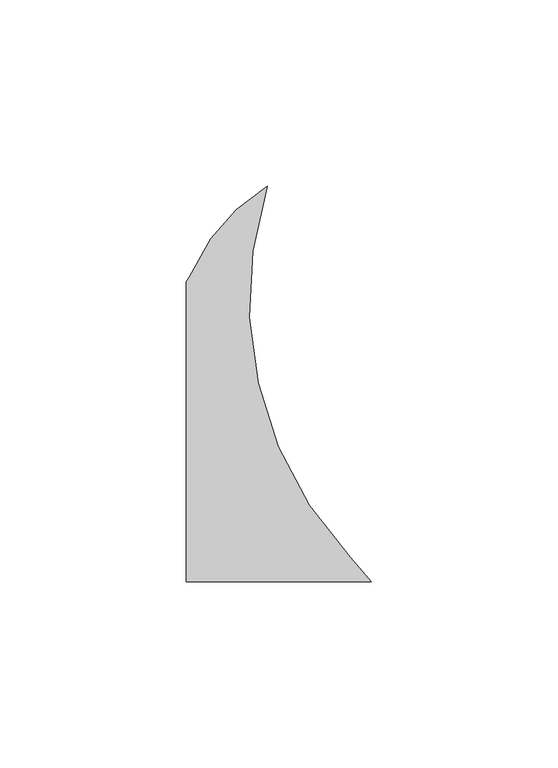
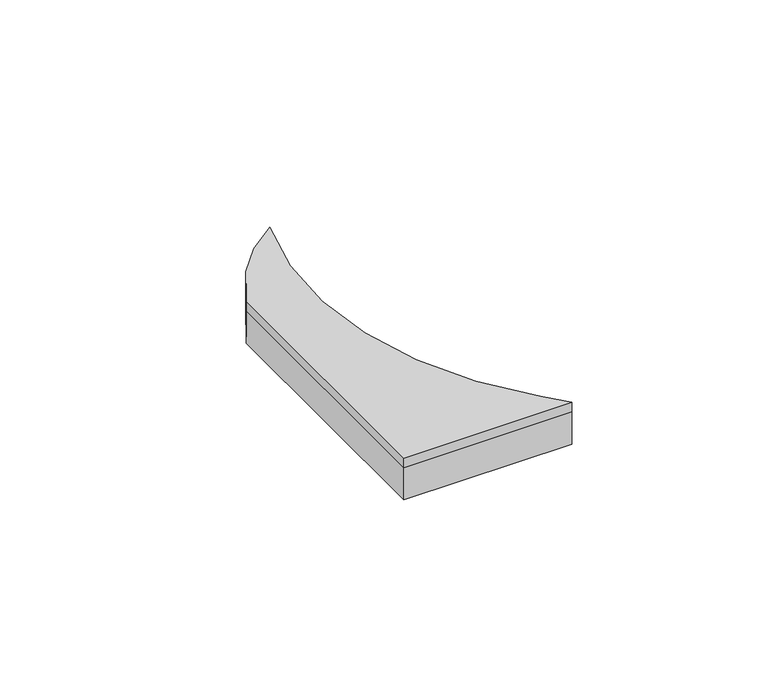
"""IFC4 building model written with IfcOpenShell, lengths in millimetres: proxy geometry, FilzFelt_Fish_Block : Fish Block."""

from ifc_helpers import new_model, si_unit, point, frame, frame_2d, origin, origin_with_axes, place, context, project, spatial, polyline, circle_curve, trimmed, segment, composite_curve, outline, extrude, source, transform, mapped, element, save


def specialty_equipment_29c11f93(model_context):
    return source(origin(), model_context, "Body", "SweptSolid", [
        extrude(outline(composite_curve([segment(trimmed(circle_curve(frame_2d((-19.5151403, 0.0)), 100.2293629), [point((53.5486457, 68.6120133))], [point((59.1130093, 62.1573751))], False, "CARTESIAN"), True, "CONTINUOUS"), segment(polyline([(59.1130093, 62.1573751), (9.5821396, 62.1573751), (9.5821396, 142.6151843)]), True, "CONTINUOUS"), segment(trimmed(circle_curve(frame_2d((0.0, 149.9026124)), 12.0384388), [point((9.5821396, 142.6151843))], [point((11.0103348, 145.0347036))], True, "CARTESIAN"), True, "CONTINUOUS"), segment(trimmed(circle_curve(frame_2d((57.9263497, 124.2921115)), 51.2968574), [point((11.0103348, 145.0347036))], [point((31.2619065, 168.1141956))], False, "CARTESIAN"), True, "CONTINUOUS"), segment(trimmed(circle_curve(frame_2d((126.6124317, 137.2240266)), 100.2293629), [point((31.2619065, 168.1141956))], [point((53.5486457, 68.6120133))], True, "CARTESIAN"), True, "CONTINUOUS")], self_intersect=False)), frame((0.0, 0.0, 10.0210937), z_axis=(0.0, 0.0, 1.0), x_axis=(1.0, 0.0, 0.0)), (0.0, 0.0, 1.0), 2.9765625),
        extrude(outline(composite_curve([segment(trimmed(circle_curve(frame_2d((126.6124317, 137.2240266)), 100.2293629), [point((31.2619065, 168.1141956))], [point((53.5486457, 68.6120133))], True, "CARTESIAN"), True, "CONTINUOUS"), segment(trimmed(circle_curve(frame_2d((-19.5151403, 0.0)), 100.2293629), [point((53.5486457, 68.6120133))], [point((59.1130093, 62.1573751))], False, "CARTESIAN"), True, "CONTINUOUS"), segment(polyline([(59.1130093, 62.1573751), (9.5821396, 62.1573751), (9.5821396, 142.6151843)]), True, "CONTINUOUS"), segment(trimmed(circle_curve(frame_2d((0.0, 149.9026124)), 12.0384388), [point((9.5821396, 142.6151843))], [point((11.0103348, 145.0347036))], True, "CARTESIAN"), True, "CONTINUOUS"), segment(trimmed(circle_curve(frame_2d((57.9263497, 124.2921115)), 51.2968574), [point((11.0103348, 145.0347036))], [point((31.2619065, 168.1141956))], False, "CARTESIAN"), True, "CONTINUOUS")], self_intersect=False)), origin_with_axes(), (0.0, 0.0, 1.0), 10.0210938),
    ])


if __name__ == "__main__":
    model = new_model("IFC4")
    model_context = context("Model", 3, world=origin())
    ifc_project = project(units=[si_unit("LENGTHUNIT", "METRE", prefix="MILLI")], contexts=[model_context])
    site = spatial("IfcSite", under=ifc_project)
    building = spatial("IfcBuilding", under=site)
    placement = place(None, origin())
    specialty_equipment_shape = specialty_equipment_29c11f93(model_context)
    element("IfcBuildingElementProxy", 1, Name="FilzFelt_Fish_Block : Fish Block", ObjectType="FilzFelt_Fish_Block : Fish Block", at=placement, inside=building, context=model_context, shape_type="MappedRepresentation", body=[
        mapped(specialty_equipment_shape, transform((0.0, 0.0, 0.0), x_axis=(1.0, 0.0, 0.0), y_axis=(0.0, 1.0, 0.0), z_axis=(0.0, 0.0, 1.0))),
    ])
    save(model, "model.ifc")
